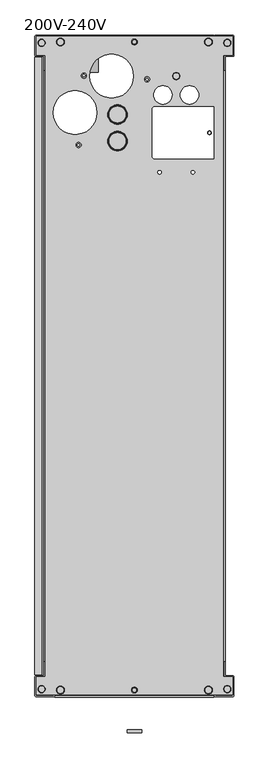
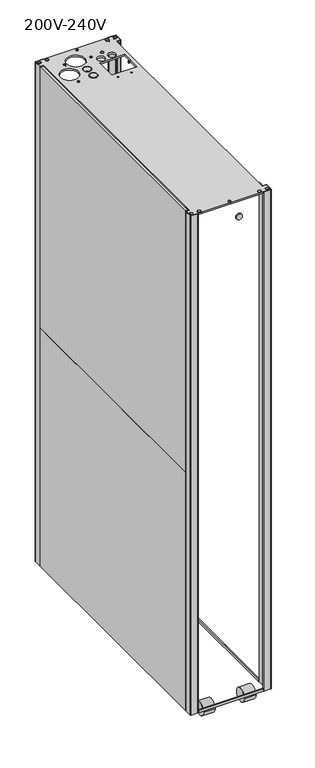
"""IFC4 building model written with IfcOpenShell, lengths in millimetres: proxy geometry, BIM_Model_for_ACRC301H-AC-Close_Coupled-Schneider_Electric-Chilled_Water-InRow_RC_301H-(208-230)V : 200V-240V."""

import ifcopenshell
import ifcopenshell.guid

model = None  # the IFC model being written
_history = None  # IfcOwnerHistory: only IFC2X3 demands one
_inside = {}  # id of a spatial element -> (the spatial element, [elements in it])
_under = {}  # id of a project, library or spatial element -> (it, [spatial elements below it])
_declared = {}  # id of a project -> (the project, [libraries it declares])
_typed = {}  # id of a type object -> (the type object, [elements of that type])
_made_of = {}  # id of a material, layer set ... -> (it, [elements and type objects made of it])


def new_model(schema):
    """Start an empty IFC model of exactly this schema.

    Asked for "IFC4X3", IfcOpenShell would pick the latest addendum, in which some entities
    have other attributes; the version numbers below select the first issue.
    IFC2X3 requires an IfcOwnerHistory on every rooted entity: one is made here for all.
    """
    global model, _history
    if schema == "IFC4X3":
        model = ifcopenshell.file(schema_version=(4, 3, 0, 0))
    else:
        model = ifcopenshell.file(schema=schema)
    _inside.clear()
    _under.clear()
    _declared.clear()
    _typed.clear()
    _made_of.clear()
    _history = None
    if model.schema == "IFC2X3":
        org = make("IfcOrganization", Name="unknown")
        user = make(
            "IfcPersonAndOrganization",
            ThePerson=make("IfcPerson", FamilyName="unknown"),
            TheOrganization=org,
        )
        app = make(
            "IfcApplication",
            ApplicationDeveloper=org,
            Version="unknown",
            ApplicationFullName="unknown",
            ApplicationIdentifier="unknown",
        )
        _history = make(
            "IfcOwnerHistory",
            OwningUser=user,
            OwningApplication=app,
            ChangeAction="ADDED",
            CreationDate=0,
        )
    return model


def make(cls, **values):
    """One entity of the class cls with the attributes given. An attribute that is None is left unset."""
    return model.create_entity(
        cls, **{name: value for name, value in values.items() if value is not None}
    )


def rooted(cls, **values):
    """An entity with a GlobalId (a new one), such as an element, a storey or a relation."""
    return make(cls, GlobalId=ifcopenshell.guid.new(), OwnerHistory=_history, **values)


def si_unit(unit_type, name, prefix=None):
    """IfcSIUnit, for example si_unit("LENGTHUNIT", "METRE", prefix="MILLI")."""
    return make("IfcSIUnit", UnitType=unit_type, Prefix=prefix, Name=name)


def assignment(units):
    """IfcUnitAssignment: the units of a project."""
    return None if units is None else make("IfcUnitAssignment", Units=units)


def point(xyz):
    """IfcCartesianPoint."""
    return None if xyz is None else make("IfcCartesianPoint", Coordinates=xyz)


def direction(xyz):
    """IfcDirection."""
    return None if xyz is None else make("IfcDirection", DirectionRatios=xyz)


def frame(location, z_axis=None, x_axis=None):
    """IfcAxis2Placement3D, a coordinate frame: its origin and axes. An axis left out is left unset."""
    return make(
        "IfcAxis2Placement3D",
        Location=point(location),
        Axis=direction(z_axis),
        RefDirection=direction(x_axis),
    )


def frame_2d(location, x_axis=None):
    """IfcAxis2Placement2D, a coordinate frame in the plane: its origin and x axis."""
    return make(
        "IfcAxis2Placement2D", Location=point(location), RefDirection=direction(x_axis)
    )


def origin():
    """The frame at (0, 0, 0) with its axes left unset."""
    return frame((0.0, 0.0, 0.0))


def place(relative_to, where):
    """IfcLocalPlacement: puts the frame where relative to a parent placement (None: the world)."""
    return make(
        "IfcLocalPlacement", PlacementRelTo=relative_to, RelativePlacement=where
    )


def context(
    kind, dimensions, precision=None, world=None, true_north=None, identifier=None
):
    """IfcGeometricRepresentationContext, for example the 3D "Model" context."""
    return make(
        "IfcGeometricRepresentationContext",
        ContextIdentifier=identifier,
        ContextType=kind,
        CoordinateSpaceDimension=dimensions,
        Precision=precision,
        WorldCoordinateSystem=world,
        TrueNorth=true_north,
    )


def project(units=None, contexts=None):
    """IfcProject with its units and contexts."""
    return rooted(
        "IfcProject",
        Name="project",
        RepresentationContexts=contexts,
        UnitsInContext=assignment(units),
    )


def spatial(cls, under=None, at=None, **own):
    """A site, building, storey or space (cls), placed at a placement, below another one or the project."""
    s = rooted(cls, ObjectPlacement=at, **own)
    if under is not None:
        _under.setdefault(under.id(), (under, []))[1].append(s)
    return s


def polyline(points):
    """IfcPolyline through the points."""
    return make("IfcPolyline", Points=[point(p) for p in points])


def circle_curve(where, radius):
    """IfcCircle in the frame where."""
    return make("IfcCircle", Position=where, Radius=radius)


def trimmed(basis, trim1, trim2, sense, master):
    """IfcTrimmedCurve: the piece of a basis curve between two trims."""
    return make(
        "IfcTrimmedCurve",
        BasisCurve=basis,
        Trim1=trim1,
        Trim2=trim2,
        SenseAgreement=sense,
        MasterRepresentation=master,
    )


def segment(curve, same_sense, transition):
    """IfcCompositeCurveSegment."""
    return make(
        "IfcCompositeCurveSegment",
        Transition=transition,
        SameSense=same_sense,
        ParentCurve=curve,
    )


def composite_curve(segments, self_intersect=None):
    """IfcCompositeCurve: segments joined end to end."""
    return make("IfcCompositeCurve", Segments=segments, SelfIntersect=self_intersect)


def outline(outer, holes=None, kind="AREA"):
    """IfcArbitraryClosedProfileDef: a profile drawn as a closed curve; with holes, ...WithVoids."""
    if holes is None:
        return make("IfcArbitraryClosedProfileDef", ProfileType=kind, OuterCurve=outer)
    return make(
        "IfcArbitraryProfileDefWithVoids",
        ProfileType=kind,
        OuterCurve=outer,
        InnerCurves=holes,
    )


def extrude(swept, where, along, depth):
    """IfcExtrudedAreaSolid: the profile swept, set in the frame where, extruded along a direction by depth."""
    return make(
        "IfcExtrudedAreaSolid",
        SweptArea=swept,
        Position=where,
        ExtrudedDirection=direction(along),
        Depth=depth,
    )


def shape(context_of_items, identifier, shape_type, items):
    """IfcShapeRepresentation: the items that make up one representation, for example the "Body"."""
    return make(
        "IfcShapeRepresentation",
        ContextOfItems=context_of_items,
        RepresentationIdentifier=identifier,
        RepresentationType=shape_type,
        Items=items,
    )


def source(mapping_origin, context_of_items, identifier, shape_type, items):
    """IfcRepresentationMap: a shape defined once, which mapped items show again and again."""
    return make(
        "IfcRepresentationMap",
        MappingOrigin=mapping_origin,
        MappedRepresentation=shape(context_of_items, identifier, shape_type, items),
    )


def transform(
    local_origin,
    x_axis=None,
    y_axis=None,
    z_axis=None,
    scale=None,
    scale2=None,
    scale3=None,
    uniform=True,
):
    """IfcCartesianTransformationOperator3D, or its non-uniform kind. x_axis, y_axis, z_axis: its Axis1, 2, 3."""
    if uniform:
        return make(
            "IfcCartesianTransformationOperator3D",
            Axis1=direction(x_axis),
            Axis2=direction(y_axis),
            LocalOrigin=point(local_origin),
            Scale=scale,
            Axis3=direction(z_axis),
        )
    return make(
        "IfcCartesianTransformationOperator3DnonUniform",
        Axis1=direction(x_axis),
        Axis2=direction(y_axis),
        LocalOrigin=point(local_origin),
        Scale=scale,
        Axis3=direction(z_axis),
        Scale2=scale2,
        Scale3=scale3,
    )


def mapped(mapping_source, mapping_target):
    """IfcMappedItem: shows the shape of a source again, moved by a transform."""
    return make(
        "IfcMappedItem", MappingSource=mapping_source, MappingTarget=mapping_target
    )


def made_of(thing, what):
    """Note that an element or type object is made of a material, layer set ...; save() writes the relation."""
    if what is not None:
        _made_of.setdefault(what.id(), (what, []))[1].append(thing)
    return thing


def element(
    cls,
    number,
    at=None,
    inside=None,
    cuts=None,
    type_object=None,
    material=None,
    context=None,
    identifier="Body",
    shape_type=None,
    held_by="IfcProductDefinitionShape",
    body=None,
    shapes=None,
    **own,
):
    """One element of the class cls, such as IfcWall. Its Tag is "e" and its number.

    at: its placement. inside: the storey or other place that contains it. cuts: it is an
    opening in that element (IfcRelVoidsElement). A single representation is given by context,
    identifier, shape_type and body (its items); several are given by shapes. held_by: the class
    of the entity that holds the representations. save() writes the other relations.
    """
    e = rooted(cls, Tag="e%d" % number, ObjectPlacement=at, **own)
    if body is not None:
        shapes = [shape(context, identifier, shape_type, body)]
    if shapes is not None:
        e.Representation = make(held_by, Representations=shapes)
    if inside is not None:
        _inside.setdefault(inside.id(), (inside, []))[1].append(e)
    if cuts is not None:
        rooted(
            "IfcRelVoidsElement", RelatingBuildingElement=cuts, RelatedOpeningElement=e
        )
    if type_object is not None:
        _typed.setdefault(type_object.id(), (type_object, []))[1].append(e)
    return made_of(e, material)


def aggregate(whole, parts):
    """IfcRelAggregates: a whole, such as a stair, and the parts it consists of."""
    return rooted("IfcRelAggregates", RelatingObject=whole, RelatedObjects=parts)


def save(model, path):
    """Write the relations noted so far, then the file.

    IfcRelAggregates (storeys below a building ...), IfcRelContainedInSpatialStructure (elements
    in a storey), IfcRelDefinesByType, IfcRelAssociatesMaterial and IfcRelDeclares: one each for
    every whole, place, type object, material and project.
    """
    for whole, parts in _under.values():
        aggregate(whole, parts)
    for where, things in _inside.values():
        rooted(
            "IfcRelContainedInSpatialStructure",
            RelatedElements=things,
            RelatingStructure=where,
        )
    for kind, things in _typed.values():
        rooted("IfcRelDefinesByType", RelatedObjects=things, RelatingType=kind)
    for what, things in _made_of.values():
        rooted("IfcRelAssociatesMaterial", RelatedObjects=things, RelatingMaterial=what)
    for by, libraries in _declared.values():
        rooted("IfcRelDeclares", RelatingContext=by, RelatedDefinitions=libraries)
    model.write(path)


def proxy_200v_240v_fc451c2e(model_context):
    return source(origin(), model_context, "Body", "SweptSolid", [
        extrude(outline(polyline([(-134.4810716, -455.3598648), (-134.4810716, 481.6724812), (-147.957802, 481.6724812), (-147.957802, 509.8577013), (147.9659779, 509.8577013), (147.9659779, 481.6803412), (133.7578931, 481.6803412), (133.7578931, -455.3455684), (147.8616006, -455.3455684), (147.8616006, -482.2563963), (-148.1830962, -482.2563963), (-148.1830962, -455.3598648), (-134.4810716, -455.3598648)]), holes=[composite_curve([segment(trimmed(circle_curve(frame_2d((-139.9810746, 500.1376512)), 5.3750029), [point((-145.3560775, 500.1376512))], [point((-134.6060717, 500.1376512))], True, "CARTESIAN"), True, "CONTINUOUS"), segment(trimmed(circle_curve(frame_2d((-139.9810746, 500.1376512)), 5.3750029), [point((-134.6060717, 500.1376512))], [point((-145.3560775, 500.1376512))], True, "CARTESIAN"), True, "CONTINUOUS")], self_intersect=False), composite_curve([segment(trimmed(circle_curve(frame_2d((-111.5499792, 501.5165719)), 6.0000032), [point((-117.5499825, 501.5165719))], [point((-105.549976, 501.5165719))], True, "CARTESIAN"), True, "CONTINUOUS"), segment(trimmed(circle_curve(frame_2d((-111.5499792, 501.5165719)), 6.0000032), [point((-105.549976, 501.5165719))], [point((-117.5499825, 501.5165719))], True, "CARTESIAN"), True, "CONTINUOUS")], self_intersect=False), composite_curve([segment(trimmed(circle_curve(frame_2d((8.1e-05, 501.5165719)), 4.3750024), [point((-4.3749214, 501.5165719))], [point((4.3750834, 501.5165719))], True, "CARTESIAN"), True, "CONTINUOUS"), segment(trimmed(circle_curve(frame_2d((8.1e-05, 501.5165719)), 4.3750024), [point((4.3750834, 501.5165719))], [point((-4.3749214, 501.5165719))], True, "CARTESIAN"), True, "CONTINUOUS")], self_intersect=False), composite_curve([segment(trimmed(circle_curve(frame_2d((111.5501412, 501.5165719)), 6.0000032), [point((105.550138, 501.5165719))], [point((117.5501445, 501.5165719))], True, "CARTESIAN"), True, "CONTINUOUS"), segment(trimmed(circle_curve(frame_2d((111.5501412, 501.5165719)), 6.0000032), [point((117.5501445, 501.5165719))], [point((105.550138, 501.5165719))], True, "CARTESIAN"), True, "CONTINUOUS")], self_intersect=False), composite_curve([segment(trimmed(circle_curve(frame_2d((139.9812366, 500.1376512)), 5.3750029), [point((134.6062337, 500.1376512))], [point((145.3562395, 500.1376512))], True, "CARTESIAN"), True, "CONTINUOUS"), segment(trimmed(circle_curve(frame_2d((139.9812366, 500.1376512)), 5.3750029), [point((145.3562395, 500.1376512))], [point((134.6062337, 500.1376512))], True, "CARTESIAN"), True, "CONTINUOUS")], self_intersect=False), composite_curve([segment(trimmed(circle_curve(frame_2d((-89.4810473, 395.1565145)), 33.0000178), [point((-122.4810651, 395.1565145))], [point((-56.4810295, 395.1565145))], True, "CARTESIAN"), True, "CONTINUOUS"), segment(trimmed(circle_curve(frame_2d((-89.4810473, 395.1565145)), 33.0000178), [point((-56.4810295, 395.1565145))], [point((-122.4810651, 395.1565145))], True, "CARTESIAN"), True, "CONTINUOUS")], self_intersect=False), composite_curve([segment(trimmed(circle_curve(frame_2d((-34.4810176, 450.1565442)), 33.0000178), [point((-67.4810354, 450.1565442))], [point((-1.4809998, 450.1565442))], True, "CARTESIAN"), True, "CONTINUOUS"), segment(trimmed(circle_curve(frame_2d((-34.4810176, 450.1565442)), 33.0000178), [point((-1.4809998, 450.1565442))], [point((-67.4810354, 450.1565442))], True, "CARTESIAN"), True, "CONTINUOUS")], self_intersect=False), composite_curve([segment(trimmed(circle_curve(frame_2d((-25.5188528, 392.1565129)), 14.6812079), [point((-40.2000607, 392.1565129))], [point((-10.8376449, 392.1565129))], True, "CARTESIAN"), True, "CONTINUOUS"), segment(trimmed(circle_curve(frame_2d((-25.5188528, 392.1565129)), 14.6812079), [point((-10.8376449, 392.1565129))], [point((-40.2000607, 392.1565129))], True, "CARTESIAN"), True, "CONTINUOUS")], self_intersect=False), composite_curve([segment(trimmed(circle_curve(frame_2d((-25.5188528, 352.1564913)), 14.6812079), [point((-40.2000607, 352.1564913))], [point((-10.8376449, 352.1564913))], True, "CARTESIAN"), True, "CONTINUOUS"), segment(trimmed(circle_curve(frame_2d((-25.5188528, 352.1564913)), 14.6812079), [point((-10.8376449, 352.1564913))], [point((-40.2000607, 352.1564913))], True, "CARTESIAN"), True, "CONTINUOUS")], self_intersect=False), polyline([(119.5922256, 403.6565191), (28.9866434, 403.6565191), (26.9866423, 401.656518), (26.9866423, 397.6565158), (26.9866423, 331.6564802), (26.9866423, 327.656478), (28.9866434, 325.6564769), (119.5922256, 325.6564769), (119.5922256, 403.6565191)]), composite_curve([segment(trimmed(circle_curve(frame_2d((82.9812058, 421.6565288)), 13.9000075), [point((69.0811983, 421.6565288))], [point((96.8812133, 421.6565288))], True, "CARTESIAN"), True, "CONTINUOUS"), segment(trimmed(circle_curve(frame_2d((82.9812058, 421.6565288)), 13.9000075), [point((96.8812133, 421.6565288))], [point((69.0811983, 421.6565288))], True, "CARTESIAN"), True, "CONTINUOUS")], self_intersect=False), composite_curve([segment(trimmed(circle_curve(frame_2d((42.9811842, 421.6565288)), 13.9000075), [point((29.0811767, 421.6565288))], [point((56.8811917, 421.6565288))], True, "CARTESIAN"), True, "CONTINUOUS"), segment(trimmed(circle_curve(frame_2d((42.9811842, 421.6565288)), 13.9000075), [point((56.8811917, 421.6565288))], [point((29.0811767, 421.6565288))], True, "CARTESIAN"), True, "CONTINUOUS")], self_intersect=False), composite_curve([segment(trimmed(circle_curve(frame_2d((19.0773315, 445.2074267)), 3.8000021), [point((15.2773295, 445.2074267))], [point((22.8773336, 445.2074267))], True, "CARTESIAN"), True, "CONTINUOUS"), segment(trimmed(circle_curve(frame_2d((19.0773315, 445.2074267)), 3.8000021), [point((22.8773336, 445.2074267))], [point((15.2773295, 445.2074267))], True, "CARTESIAN"), True, "CONTINUOUS")], self_intersect=False), composite_curve([segment(trimmed(circle_curve(frame_2d((62.981195, 450.1565442)), 5.2500028), [point((57.7311922, 450.1565442))], [point((68.2311978, 450.1565442))], True, "CARTESIAN"), True, "CONTINUOUS"), segment(trimmed(circle_curve(frame_2d((62.981195, 450.1565442)), 5.2500028), [point((68.2311978, 450.1565442))], [point((57.7311922, 450.1565442))], True, "CARTESIAN"), True, "CONTINUOUS")], self_intersect=False), composite_curve([segment(trimmed(circle_curve(frame_2d((-76.2865117, 450.7524474)), 3.8000021), [point((-80.0865138, 450.7524474))], [point((-72.4865097, 450.7524474))], True, "CARTESIAN"), True, "CONTINUOUS"), segment(trimmed(circle_curve(frame_2d((-76.2865117, 450.7524474)), 3.8000021), [point((-72.4865097, 450.7524474))], [point((-80.0865138, 450.7524474))], True, "CARTESIAN"), True, "CONTINUOUS")], self_intersect=False), composite_curve([segment(trimmed(circle_curve(frame_2d((-84.1459649, 346.2429222)), 3.8000021), [point((-87.945967, 346.2429222))], [point((-80.3459629, 346.2429222))], True, "CARTESIAN"), True, "CONTINUOUS"), segment(trimmed(circle_curve(frame_2d((-84.1459649, 346.2429222)), 3.8000021), [point((-80.3459629, 346.2429222))], [point((-87.945967, 346.2429222))], True, "CARTESIAN"), True, "CONTINUOUS")], self_intersect=False), composite_curve([segment(trimmed(circle_curve(frame_2d((87.9812085, 305.1564659)), 2.6647024), [point((85.3165061, 305.1564659))], [point((90.6459109, 305.1564659))], True, "CARTESIAN"), True, "CONTINUOUS"), segment(trimmed(circle_curve(frame_2d((87.9812085, 305.1564659)), 2.6647024), [point((90.6459109, 305.1564659))], [point((85.3165061, 305.1564659))], True, "CARTESIAN"), True, "CONTINUOUS")], self_intersect=False), composite_curve([segment(trimmed(circle_curve(frame_2d((37.9811815, 305.1564659)), 2.6647024), [point((35.3164791, 305.1564659))], [point((40.6458839, 305.1564659))], True, "CARTESIAN"), True, "CONTINUOUS"), segment(trimmed(circle_curve(frame_2d((37.9811815, 305.1564659)), 2.6647024), [point((40.6458839, 305.1564659))], [point((35.3164791, 305.1564659))], True, "CARTESIAN"), True, "CONTINUOUS")], self_intersect=False), composite_curve([segment(trimmed(circle_curve(frame_2d((139.9812366, -473.8250348)), 5.3750029), [point((134.6062337, -473.8250348))], [point((145.3562395, -473.8250348))], True, "CARTESIAN"), True, "CONTINUOUS"), segment(trimmed(circle_curve(frame_2d((139.9812366, -473.8250348)), 5.3750029), [point((145.3562395, -473.8250348))], [point((134.6062337, -473.8250348))], True, "CARTESIAN"), True, "CONTINUOUS")], self_intersect=False), composite_curve([segment(trimmed(circle_curve(frame_2d((111.5501412, -475.2039555)), 6.0000032), [point((105.550138, -475.2039555))], [point((117.5501445, -475.2039555))], True, "CARTESIAN"), True, "CONTINUOUS"), segment(trimmed(circle_curve(frame_2d((111.5501412, -475.2039555)), 6.0000032), [point((117.5501445, -475.2039555))], [point((105.550138, -475.2039555))], True, "CARTESIAN"), True, "CONTINUOUS")], self_intersect=False), composite_curve([segment(trimmed(circle_curve(frame_2d((8.1e-05, -475.2039555)), 4.3750024), [point((-4.3749214, -475.2039555))], [point((4.3750834, -475.2039555))], True, "CARTESIAN"), True, "CONTINUOUS"), segment(trimmed(circle_curve(frame_2d((8.1e-05, -475.2039555)), 4.3750024), [point((4.3750834, -475.2039555))], [point((-4.3749214, -475.2039555))], True, "CARTESIAN"), True, "CONTINUOUS")], self_intersect=False), composite_curve([segment(trimmed(circle_curve(frame_2d((-139.9810746, -473.8250348)), 5.3750029), [point((-145.3560775, -473.8250348))], [point((-134.6060717, -473.8250348))], True, "CARTESIAN"), True, "CONTINUOUS"), segment(trimmed(circle_curve(frame_2d((-139.9810746, -473.8250348)), 5.3750029), [point((-134.6060717, -473.8250348))], [point((-145.3560775, -473.8250348))], True, "CARTESIAN"), True, "CONTINUOUS")], self_intersect=False), composite_curve([segment(trimmed(circle_curve(frame_2d((-111.5499792, -475.2039555)), 6.0000032), [point((-117.5499825, -475.2039555))], [point((-105.549976, -475.2039555))], True, "CARTESIAN"), True, "CONTINUOUS"), segment(trimmed(circle_curve(frame_2d((-111.5499792, -475.2039555)), 6.0000032), [point((-105.549976, -475.2039555))], [point((-117.5499825, -475.2039555))], True, "CARTESIAN"), True, "CONTINUOUS")], self_intersect=False)]), frame((0.0, 0.0, 1985.0), z_axis=(0.0, 0.0, 1.0), x_axis=(1.0, 0.0, 0.0)), (0.0, 0.0, 1.0), 6.0),
        extrude(outline(composite_curve([segment(trimmed(circle_curve(frame_2d((-139.9810746, 500.1346512)), 4.6000025), [point((-144.5810771, 500.1346512))], [point((-135.3810721, 500.1346512))], False, "CARTESIAN"), True, "CONTINUOUS"), segment(trimmed(circle_curve(frame_2d((-139.9810746, 500.1346512)), 4.6000025), [point((-135.3810721, 500.1346512))], [point((-144.5810771, 500.1346512))], False, "CARTESIAN"), True, "CONTINUOUS")], self_intersect=False)), frame((0.0, 0.0, 1985.0), z_axis=(0.0, 0.0, 1.0), x_axis=(1.0, 0.0, 0.0)), (0.0, 0.0, 1.0), 6.0),
        extrude(outline(composite_curve([segment(trimmed(circle_curve(frame_2d((-111.5509792, 501.5165719)), 5.0000027), [point((-116.5509819, 501.5165719))], [point((-106.5509765, 501.5165719))], False, "CARTESIAN"), True, "CONTINUOUS"), segment(trimmed(circle_curve(frame_2d((-111.5509792, 501.5165719)), 5.0000027), [point((-106.5509765, 501.5165719))], [point((-116.5509819, 501.5165719))], False, "CARTESIAN"), True, "CONTINUOUS")], self_intersect=False)), frame((0.0, 0.0, 1985.0), z_axis=(0.0, 0.0, 1.0), x_axis=(1.0, 0.0, 0.0)), (0.0, 0.0, 1.0), 6.0),
        extrude(outline(composite_curve([segment(trimmed(circle_curve(frame_2d((8.1e-05, 501.5165719)), 3.0000016), [point((-2.9999206, 501.5165719))], [point((3.0000826, 501.5165719))], False, "CARTESIAN"), True, "CONTINUOUS"), segment(trimmed(circle_curve(frame_2d((8.1e-05, 501.5165719)), 3.0000016), [point((3.0000826, 501.5165719))], [point((-2.9999206, 501.5165719))], False, "CARTESIAN"), True, "CONTINUOUS")], self_intersect=False)), frame((0.0, 0.0, 1985.0), z_axis=(0.0, 0.0, 1.0), x_axis=(1.0, 0.0, 0.0)), (0.0, 0.0, 1.0), 6.0),
        extrude(outline(composite_curve([segment(trimmed(circle_curve(frame_2d((111.5512212, 501.5176519)), 5.0000027), [point((106.5512185, 501.5176519))], [point((116.5512239, 501.5176519))], False, "CARTESIAN"), True, "CONTINUOUS"), segment(trimmed(circle_curve(frame_2d((111.5512212, 501.5176519)), 5.0000027), [point((116.5512239, 501.5176519))], [point((106.5512185, 501.5176519))], False, "CARTESIAN"), True, "CONTINUOUS")], self_intersect=False)), frame((0.0, 0.0, 1985.0), z_axis=(0.0, 0.0, 1.0), x_axis=(1.0, 0.0, 0.0)), (0.0, 0.0, 1.0), 6.0),
        extrude(outline(composite_curve([segment(trimmed(circle_curve(frame_2d((139.9812366, 500.1376512)), 4.6000025), [point((135.3812341, 500.1376512))], [point((144.5812391, 500.1376512))], False, "CARTESIAN"), True, "CONTINUOUS"), segment(trimmed(circle_curve(frame_2d((139.9812366, 500.1376512)), 4.6000025), [point((144.5812391, 500.1376512))], [point((135.3812341, 500.1376512))], False, "CARTESIAN"), True, "CONTINUOUS")], self_intersect=False)), frame((0.0, 0.0, 1985.0), z_axis=(0.0, 0.0, 1.0), x_axis=(1.0, 0.0, 0.0)), (0.0, 0.0, 1.0), 6.0),
        extrude(outline(composite_curve([segment(trimmed(circle_curve(frame_2d((-25.5188528, 392.1565129)), 14.0462076), [point((-39.5650604, 392.1565129))], [point((-11.4726452, 392.1565129))], False, "CARTESIAN"), True, "CONTINUOUS"), segment(trimmed(circle_curve(frame_2d((-25.5188528, 392.1565129)), 14.0462076), [point((-11.4726452, 392.1565129))], [point((-39.5650604, 392.1565129))], False, "CARTESIAN"), True, "CONTINUOUS")], self_intersect=False), holes=[composite_curve([segment(trimmed(circle_curve(frame_2d((-25.5188528, 392.1565129)), 13.2461072), [point((-38.7649599, 392.1565129))], [point((-12.2727456, 392.1565129))], True, "CARTESIAN"), True, "CONTINUOUS"), segment(trimmed(circle_curve(frame_2d((-25.5188528, 392.1565129)), 13.2461072), [point((-12.2727456, 392.1565129))], [point((-38.7649599, 392.1565129))], True, "CARTESIAN"), True, "CONTINUOUS")], self_intersect=False)]), frame((0.0, 0.0, 1985.0), z_axis=(0.0, 0.0, 1.0), x_axis=(1.0, 0.0, 0.0)), (0.0, 0.0, 1.0), 6.0),
        extrude(outline(composite_curve([segment(trimmed(circle_curve(frame_2d((-25.5188528, 392.1565129)), 12.6111068), [point((-38.1299596, 392.1565129))], [point((-12.907746, 392.1565129))], False, "CARTESIAN"), True, "CONTINUOUS"), segment(trimmed(circle_curve(frame_2d((-25.5188528, 392.1565129)), 12.6111068), [point((-12.907746, 392.1565129))], [point((-38.1299596, 392.1565129))], False, "CARTESIAN"), True, "CONTINUOUS")], self_intersect=False)), frame((0.0, 0.0, 1985.0), z_axis=(0.0, 0.0, 1.0), x_axis=(1.0, 0.0, 0.0)), (0.0, 0.0, 1.0), 6.0),
        extrude(outline(composite_curve([segment(trimmed(circle_curve(frame_2d((-25.5188528, 352.1564913)), 14.0462076), [point((-39.5650604, 352.1564913))], [point((-11.4726452, 352.1564913))], False, "CARTESIAN"), True, "CONTINUOUS"), segment(trimmed(circle_curve(frame_2d((-25.5188528, 352.1564913)), 14.0462076), [point((-11.4726452, 352.1564913))], [point((-39.5650604, 352.1564913))], False, "CARTESIAN"), True, "CONTINUOUS")], self_intersect=False), holes=[composite_curve([segment(trimmed(circle_curve(frame_2d((-25.5188528, 352.1564913)), 13.2461072), [point((-38.7649599, 352.1564913))], [point((-12.2727456, 352.1564913))], True, "CARTESIAN"), True, "CONTINUOUS"), segment(trimmed(circle_curve(frame_2d((-25.5188528, 352.1564913)), 13.2461072), [point((-12.2727456, 352.1564913))], [point((-38.7649599, 352.1564913))], True, "CARTESIAN"), True, "CONTINUOUS")], self_intersect=False)]), frame((0.0, 0.0, 1985.0), z_axis=(0.0, 0.0, 1.0), x_axis=(1.0, 0.0, 0.0)), (0.0, 0.0, 1.0), 6.0),
        extrude(outline(composite_curve([segment(trimmed(circle_curve(frame_2d((-25.5188528, 352.1564913)), 12.6111068), [point((-38.1299596, 352.1564913))], [point((-12.907746, 352.1564913))], False, "CARTESIAN"), True, "CONTINUOUS"), segment(trimmed(circle_curve(frame_2d((-25.5188528, 352.1564913)), 12.6111068), [point((-12.907746, 352.1564913))], [point((-38.1299596, 352.1564913))], False, "CARTESIAN"), True, "CONTINUOUS")], self_intersect=False)), frame((0.0, 0.0, 1985.0), z_axis=(0.0, 0.0, 1.0), x_axis=(1.0, 0.0, 0.0)), (0.0, 0.0, 1.0), 6.0),
        extrude(outline(composite_curve([segment(trimmed(circle_curve(frame_2d((19.0773315, 445.2074267)), 2.0000011), [point((17.0773305, 445.2074267))], [point((21.0773326, 445.2074267))], False, "CARTESIAN"), True, "CONTINUOUS"), segment(trimmed(circle_curve(frame_2d((19.0773315, 445.2074267)), 2.0000011), [point((21.0773326, 445.2074267))], [point((17.0773305, 445.2074267))], False, "CARTESIAN"), True, "CONTINUOUS")], self_intersect=False)), frame((0.0, 0.0, 1985.0), z_axis=(0.0, 0.0, 1.0), x_axis=(1.0, 0.0, 0.0)), (0.0, 0.0, 1.0), 6.0),
        extrude(outline(composite_curve([segment(trimmed(circle_curve(frame_2d((62.981195, 450.1565442)), 4.6000025), [point((58.3811925, 450.1565442))], [point((67.5811975, 450.1565442))], False, "CARTESIAN"), True, "CONTINUOUS"), segment(trimmed(circle_curve(frame_2d((62.981195, 450.1565442)), 4.6000025), [point((67.5811975, 450.1565442))], [point((58.3811925, 450.1565442))], False, "CARTESIAN"), True, "CONTINUOUS")], self_intersect=False)), frame((0.0, 0.0, 1985.0), z_axis=(0.0, 0.0, 1.0), x_axis=(1.0, 0.0, 0.0)), (0.0, 0.0, 1.0), 6.0),
        extrude(outline(composite_curve([segment(trimmed(circle_curve(frame_2d((-76.2865117, 450.7524474)), 2.0000011), [point((-78.2865128, 450.7524474))], [point((-74.2865106, 450.7524474))], False, "CARTESIAN"), True, "CONTINUOUS"), segment(trimmed(circle_curve(frame_2d((-76.2865117, 450.7524474)), 2.0000011), [point((-74.2865106, 450.7524474))], [point((-78.2865128, 450.7524474))], False, "CARTESIAN"), True, "CONTINUOUS")], self_intersect=False)), frame((0.0, 0.0, 1985.0), z_axis=(0.0, 0.0, 1.0), x_axis=(1.0, 0.0, 0.0)), (0.0, 0.0, 1.0), 6.0),
        extrude(outline(composite_curve([segment(trimmed(circle_curve(frame_2d((-84.1459649, 346.2429222)), 2.0000011), [point((-86.145966, 346.2429222))], [point((-82.1459638, 346.2429222))], False, "CARTESIAN"), True, "CONTINUOUS"), segment(trimmed(circle_curve(frame_2d((-84.1459649, 346.2429222)), 2.0000011), [point((-82.1459638, 346.2429222))], [point((-86.145966, 346.2429222))], False, "CARTESIAN"), True, "CONTINUOUS")], self_intersect=False)), frame((0.0, 0.0, 1985.0), z_axis=(0.0, 0.0, 1.0), x_axis=(1.0, 0.0, 0.0)), (0.0, 0.0, 1.0), 6.0),
        extrude(outline(composite_curve([segment(trimmed(circle_curve(frame_2d((112.981222, 364.656498)), 2.7050015), [point((110.2762205, 364.656498))], [point((115.6862235, 364.656498))], False, "CARTESIAN"), True, "CONTINUOUS"), segment(trimmed(circle_curve(frame_2d((112.981222, 364.656498)), 2.7050015), [point((115.6862235, 364.656498))], [point((110.2762205, 364.656498))], False, "CARTESIAN"), True, "CONTINUOUS")], self_intersect=False), holes=[composite_curve([segment(trimmed(circle_curve(frame_2d((112.981222, 364.656498)), 2.0000011), [point((110.9812209, 364.656498))], [point((114.9812231, 364.656498))], True, "CARTESIAN"), True, "CONTINUOUS"), segment(trimmed(circle_curve(frame_2d((112.981222, 364.656498)), 2.0000011), [point((114.9812231, 364.656498))], [point((110.9812209, 364.656498))], True, "CARTESIAN"), True, "CONTINUOUS")], self_intersect=False)]), frame((0.0, 0.0, 1985.0), z_axis=(0.0, 0.0, 1.0), x_axis=(1.0, 0.0, 0.0)), (0.0, 0.0, 1.0), 6.0),
        extrude(outline(composite_curve([segment(trimmed(circle_curve(frame_2d((139.9812366, -473.8220348)), 4.6000025), [point((135.3812341, -473.8220348))], [point((144.5812391, -473.8220348))], False, "CARTESIAN"), True, "CONTINUOUS"), segment(trimmed(circle_curve(frame_2d((139.9812366, -473.8220348)), 4.6000025), [point((144.5812391, -473.8220348))], [point((135.3812341, -473.8220348))], False, "CARTESIAN"), True, "CONTINUOUS")], self_intersect=False)), frame((0.0, 0.0, 1985.0), z_axis=(0.0, 0.0, 1.0), x_axis=(1.0, 0.0, 0.0)), (0.0, 0.0, 1.0), 6.0),
        extrude(outline(composite_curve([segment(trimmed(circle_curve(frame_2d((111.5511412, -475.2039555)), 5.0000027), [point((106.5511385, -475.2039555))], [point((116.5511439, -475.2039555))], False, "CARTESIAN"), True, "CONTINUOUS"), segment(trimmed(circle_curve(frame_2d((111.5511412, -475.2039555)), 5.0000027), [point((116.5511439, -475.2039555))], [point((106.5511385, -475.2039555))], False, "CARTESIAN"), True, "CONTINUOUS")], self_intersect=False)), frame((0.0, 0.0, 1985.0), z_axis=(0.0, 0.0, 1.0), x_axis=(1.0, 0.0, 0.0)), (0.0, 0.0, 1.0), 6.0),
        extrude(outline(composite_curve([segment(trimmed(circle_curve(frame_2d((8.1e-05, -475.2039555)), 3.0000016), [point((-2.9999206, -475.2039555))], [point((3.0000826, -475.2039555))], False, "CARTESIAN"), True, "CONTINUOUS"), segment(trimmed(circle_curve(frame_2d((8.1e-05, -475.2039555)), 3.0000016), [point((3.0000826, -475.2039555))], [point((-2.9999206, -475.2039555))], False, "CARTESIAN"), True, "CONTINUOUS")], self_intersect=False)), frame((0.0, 0.0, 1985.0), z_axis=(0.0, 0.0, 1.0), x_axis=(1.0, 0.0, 0.0)), (0.0, 0.0, 1.0), 6.0),
        extrude(outline(composite_curve([segment(trimmed(circle_curve(frame_2d((-139.9810746, -473.8250348)), 4.6000025), [point((-144.5810771, -473.8250348))], [point((-135.3810721, -473.8250348))], False, "CARTESIAN"), True, "CONTINUOUS"), segment(trimmed(circle_curve(frame_2d((-139.9810746, -473.8250348)), 4.6000025), [point((-135.3810721, -473.8250348))], [point((-144.5810771, -473.8250348))], False, "CARTESIAN"), True, "CONTINUOUS")], self_intersect=False)), frame((0.0, 0.0, 1985.0), z_axis=(0.0, 0.0, 1.0), x_axis=(1.0, 0.0, 0.0)), (0.0, 0.0, 1.0), 6.0),
        extrude(outline(composite_curve([segment(trimmed(circle_curve(frame_2d((-111.5510592, -475.2050355)), 5.0000027), [point((-116.5510619, -475.2050355))], [point((-106.5510565, -475.2050355))], False, "CARTESIAN"), True, "CONTINUOUS"), segment(trimmed(circle_curve(frame_2d((-111.5510592, -475.2050355)), 5.0000027), [point((-106.5510565, -475.2050355))], [point((-116.5510619, -475.2050355))], False, "CARTESIAN"), True, "CONTINUOUS")], self_intersect=False)), frame((0.0, 0.0, 1985.0), z_axis=(0.0, 0.0, 1.0), x_axis=(1.0, 0.0, 0.0)), (0.0, 0.0, 1.0), 6.0),
        extrude(outline(polyline([(119.7501457, -483.57504), (119.7501457, -485.8439613), (-119.7499837, -485.8439613), (-119.7499837, -483.57504), (119.7501457, -483.57504)])), frame((0.0, 0.0, 36.1092195), z_axis=(0.0, 0.0, 1.0), x_axis=(1.0, 0.0, 0.0)), (0.0, 0.0, 1.0), 10.0),
        extrude(outline(polyline([(119.7501457, 512.1565777), (119.7501457, 509.8876564), (-119.7499837, 509.8876564), (-119.7499837, 512.1565777), (119.7501457, 512.1565777)])), frame((0.0, 0.0, 36.1092195), z_axis=(0.0, 0.0, 1.0), x_axis=(1.0, 0.0, 0.0)), (0.0, 0.0, 1.0), 10.0),
        extrude(outline(polyline([(136.4999927, 459.156549), (136.4999927, -432.8439326), (134.2312335, -432.8439326), (134.2312335, 459.156549), (136.4999927, 459.156549)])), frame((0.0, 0.0, 36.1092195), z_axis=(0.0, 0.0, 1.0), x_axis=(1.0, 0.0, 0.0)), (0.0, 0.0, 1.0), 10.0),
        extrude(outline(polyline([(-136.4999927, -432.8439326), (-136.4999927, 459.156549), (-134.2310715, 459.156549), (-134.2310715, -432.8439326), (-136.4999927, -432.8439326)])), frame((0.0, 0.0, 36.1092195), z_axis=(0.0, 0.0, 1.0), x_axis=(1.0, 0.0, 0.0)), (0.0, 0.0, 1.0), 10.0),
        extrude(outline(composite_curve([segment(trimmed(circle_curve(frame_2d((122.268905, -483.1346453)), 0.7500004), [point((121.5189046, -483.1346453))], [point((122.268905, -483.8846457))], True, "CARTESIAN"), True, "CONTINUOUS"), segment(polyline([(122.268905, -483.8846457), (147.7310788, -483.8846457)]), True, "CONTINUOUS"), segment(trimmed(circle_curve(frame_2d((147.7310788, -483.1346453)), 0.7500004), [point((147.7310788, -483.8846457))], [point((148.4810792, -483.1346453))], True, "CARTESIAN"), True, "CONTINUOUS"), segment(polyline([(148.4810792, -483.1346453), (148.4810792, -455.6724704)]), True, "CONTINUOUS"), segment(trimmed(circle_curve(frame_2d((147.7310788, -455.6724704)), 0.7500004), [point((148.4810792, -455.6724704))], [point((147.7310788, -454.92247))], True, "CARTESIAN"), True, "CONTINUOUS"), segment(polyline([(147.7310788, -454.92247), (137.2499931, -454.92247)]), True, "CONTINUOUS"), segment(trimmed(circle_curve(frame_2d((137.2499931, -452.6535488)), 2.2689212), [point((137.2499931, -454.92247))], [point((134.9810719, -452.6535488))], False, "CARTESIAN"), True, "CONTINUOUS"), segment(polyline([(134.9810719, -452.6535488), (134.9810719, -432.8439326), (136.4999927, -432.8439326), (136.4999927, -452.6535488)]), True, "CONTINUOUS"), segment(trimmed(circle_curve(frame_2d((137.2499931, -452.6535488)), 0.7500004), [point((136.4999927, -452.6535488))], [point((137.2499931, -453.4035492))], True, "CARTESIAN"), True, "CONTINUOUS"), segment(polyline([(137.2499931, -453.4035492), (147.7310788, -453.4035492)]), True, "CONTINUOUS"), segment(trimmed(circle_curve(frame_2d((147.7310788, -455.6724704)), 2.2689212), [point((147.7310788, -453.4035492))], [point((150.0, -455.6724704))], False, "CARTESIAN"), True, "CONTINUOUS"), segment(polyline([(150.0, -455.6724704), (150.0, -483.1346453)]), True, "CONTINUOUS"), segment(trimmed(circle_curve(frame_2d((147.7310788, -483.1346453)), 2.2689212), [point((150.0, -483.1346453))], [point((147.7310788, -485.4035665))], False, "CARTESIAN"), True, "CONTINUOUS"), segment(polyline([(147.7310788, -485.4035665), (122.268905, -485.4035665)]), True, "CONTINUOUS"), segment(trimmed(circle_curve(frame_2d((122.268905, -483.1346453)), 2.2689212), [point((122.268905, -485.4035665))], [point((119.9999838, -483.1346453))], False, "CARTESIAN"), True, "CONTINUOUS"), segment(polyline([(119.9999838, -483.1346453), (121.5189046, -483.1346453)]), True, "CONTINUOUS")], self_intersect=False)), frame((0.0, 0.0, 36.1092195), z_axis=(0.0, 0.0, 1.0), x_axis=(1.0, 0.0, 0.0)), (0.0, 0.0, 1.0), 1954.8907805),
        extrude(outline(composite_curve([segment(polyline([(-121.5189046, -483.1346453), (-119.9999838, -483.1346453)]), True, "CONTINUOUS"), segment(trimmed(circle_curve(frame_2d((-122.268905, -483.1346453)), 2.2689212), [point((-119.9999838, -483.1346453))], [point((-122.268905, -485.4035665))], False, "CARTESIAN"), True, "CONTINUOUS"), segment(polyline([(-122.268905, -485.4035665), (-147.7310788, -485.4035665)]), True, "CONTINUOUS"), segment(trimmed(circle_curve(frame_2d((-147.7310788, -483.1346453)), 2.2689212), [point((-147.7310788, -485.4035665))], [point((-150.0, -483.1346453))], False, "CARTESIAN"), True, "CONTINUOUS"), segment(polyline([(-150.0, -483.1346453), (-150.0, -455.6724704)]), True, "CONTINUOUS"), segment(trimmed(circle_curve(frame_2d((-147.7310788, -455.6724704)), 2.2689212), [point((-150.0, -455.6724704))], [point((-147.7310788, -453.4035492))], False, "CARTESIAN"), True, "CONTINUOUS"), segment(polyline([(-147.7310788, -453.4035492), (-137.2499931, -453.4035492)]), True, "CONTINUOUS"), segment(trimmed(circle_curve(frame_2d((-137.2499931, -452.6535488)), 0.7500004), [point((-137.2499931, -453.4035492))], [point((-136.4999927, -452.6535488))], True, "CARTESIAN"), True, "CONTINUOUS"), segment(polyline([(-136.4999927, -452.6535488), (-136.4999927, -432.8439326), (-134.9810719, -432.8439326), (-134.9810719, -452.6535488)]), True, "CONTINUOUS"), segment(trimmed(circle_curve(frame_2d((-137.2499931, -452.6535488)), 2.2689212), [point((-134.9810719, -452.6535488))], [point((-137.2499931, -454.92247))], False, "CARTESIAN"), True, "CONTINUOUS"), segment(polyline([(-137.2499931, -454.92247), (-147.7310788, -454.92247)]), True, "CONTINUOUS"), segment(trimmed(circle_curve(frame_2d((-147.7310788, -455.6724704)), 0.7500004), [point((-147.7310788, -454.92247))], [point((-148.4810792, -455.6724704))], True, "CARTESIAN"), True, "CONTINUOUS"), segment(polyline([(-148.4810792, -455.6724704), (-148.4810792, -483.1346453)]), True, "CONTINUOUS"), segment(trimmed(circle_curve(frame_2d((-147.7310788, -483.1346453)), 0.7500004), [point((-148.4810792, -483.1346453))], [point((-147.7310788, -483.8846457))], True, "CARTESIAN"), True, "CONTINUOUS"), segment(polyline([(-147.7310788, -483.8846457), (-122.268905, -483.8846457)]), True, "CONTINUOUS"), segment(trimmed(circle_curve(frame_2d((-122.268905, -483.1346453)), 0.7500004), [point((-122.268905, -483.8846457))], [point((-121.5189046, -483.1346453))], True, "CARTESIAN"), True, "CONTINUOUS")], self_intersect=False)), frame((0.0, 0.0, 36.1092195), z_axis=(0.0, 0.0, 1.0), x_axis=(1.0, 0.0, 0.0)), (0.0, 0.0, 1.0), 1954.8907805),
        extrude(outline(composite_curve([segment(polyline([(121.5189046, 509.3846562), (119.9999838, 509.3846562)]), True, "CONTINUOUS"), segment(trimmed(circle_curve(frame_2d((122.268905, 509.3846562)), 2.2689212), [point((119.9999838, 509.3846562))], [point((122.268905, 511.6535774))], False, "CARTESIAN"), True, "CONTINUOUS"), segment(polyline([(122.268905, 511.6535774), (147.7310788, 511.6535774)]), True, "CONTINUOUS"), segment(trimmed(circle_curve(frame_2d((147.7310788, 509.3846562)), 2.2689212), [point((147.7310788, 511.6535774))], [point((150.0, 509.3846562))], False, "CARTESIAN"), True, "CONTINUOUS"), segment(polyline([(150.0, 509.3846562), (150.0, 481.9224813)]), True, "CONTINUOUS"), segment(trimmed(circle_curve(frame_2d((147.7310788, 481.9224813)), 2.2689212), [point((150.0, 481.9224813))], [point((147.7310788, 479.6535601))], False, "CARTESIAN"), True, "CONTINUOUS"), segment(polyline([(147.7310788, 479.6535601), (137.2499931, 479.6535601)]), True, "CONTINUOUS"), segment(trimmed(circle_curve(frame_2d((137.2499931, 478.9035597)), 0.7500004), [point((137.2499931, 479.6535601))], [point((136.4999927, 478.9035597))], True, "CARTESIAN"), True, "CONTINUOUS"), segment(polyline([(136.4999927, 478.9035597), (136.4999927, 459.156549), (134.9810719, 459.156549), (134.9810719, 478.9035597)]), True, "CONTINUOUS"), segment(trimmed(circle_curve(frame_2d((137.2499931, 478.9035597)), 2.2689212), [point((134.9810719, 478.9035597))], [point((137.2499931, 481.1724809))], False, "CARTESIAN"), True, "CONTINUOUS"), segment(polyline([(137.2499931, 481.1724809), (147.7310788, 481.1724809)]), True, "CONTINUOUS"), segment(trimmed(circle_curve(frame_2d((147.7310788, 481.9224813)), 0.7500004), [point((147.7310788, 481.1724809))], [point((148.4810792, 481.9224813))], True, "CARTESIAN"), True, "CONTINUOUS"), segment(polyline([(148.4810792, 481.9224813), (148.4810792, 509.3846562)]), True, "CONTINUOUS"), segment(trimmed(circle_curve(frame_2d((147.7310788, 509.3846562)), 0.7500004), [point((148.4810792, 509.3846562))], [point((147.7310788, 510.1346566))], True, "CARTESIAN"), True, "CONTINUOUS"), segment(polyline([(147.7310788, 510.1346566), (122.268905, 510.1346566)]), True, "CONTINUOUS"), segment(trimmed(circle_curve(frame_2d((122.268905, 509.3846562)), 0.7500004), [point((122.268905, 510.1346566))], [point((121.5189046, 509.3846562))], True, "CARTESIAN"), True, "CONTINUOUS")], self_intersect=False)), frame((0.0, 0.0, 36.1092195), z_axis=(0.0, 0.0, 1.0), x_axis=(1.0, 0.0, 0.0)), (0.0, 0.0, 1.0), 1954.8907805),
        extrude(outline(composite_curve([segment(trimmed(circle_curve(frame_2d((-122.268905, 509.3846562)), 0.7500004), [point((-121.5189046, 509.3846562))], [point((-122.268905, 510.1346566))], True, "CARTESIAN"), True, "CONTINUOUS"), segment(polyline([(-122.268905, 510.1346566), (-147.7310788, 510.1346566)]), True, "CONTINUOUS"), segment(trimmed(circle_curve(frame_2d((-147.7310788, 509.3846562)), 0.7500004), [point((-147.7310788, 510.1346566))], [point((-148.4810792, 509.3846562))], True, "CARTESIAN"), True, "CONTINUOUS"), segment(polyline([(-148.4810792, 509.3846562), (-148.4810792, 481.9224813)]), True, "CONTINUOUS"), segment(trimmed(circle_curve(frame_2d((-147.7310788, 481.9224813)), 0.7500004), [point((-148.4810792, 481.9224813))], [point((-147.7310788, 481.1724809))], True, "CARTESIAN"), True, "CONTINUOUS"), segment(polyline([(-147.7310788, 481.1724809), (-137.2499931, 481.1724809)]), True, "CONTINUOUS"), segment(trimmed(circle_curve(frame_2d((-137.2499931, 478.9035597)), 2.2689212), [point((-137.2499931, 481.1724809))], [point((-134.9810719, 478.9035597))], False, "CARTESIAN"), True, "CONTINUOUS"), segment(polyline([(-134.9810719, 478.9035597), (-134.9810719, 459.156549), (-136.4999927, 459.156549), (-136.4999927, 478.9035597)]), True, "CONTINUOUS"), segment(trimmed(circle_curve(frame_2d((-137.2499931, 478.9035597)), 0.7500004), [point((-136.4999927, 478.9035597))], [point((-137.2499931, 479.6535601))], True, "CARTESIAN"), True, "CONTINUOUS"), segment(polyline([(-137.2499931, 479.6535601), (-147.7310788, 479.6535601)]), True, "CONTINUOUS"), segment(trimmed(circle_curve(frame_2d((-147.7310788, 481.9224813)), 2.2689212), [point((-147.7310788, 479.6535601))], [point((-150.0, 481.9224813))], False, "CARTESIAN"), True, "CONTINUOUS"), segment(polyline([(-150.0, 481.9224813), (-150.0, 509.3846562)]), True, "CONTINUOUS"), segment(trimmed(circle_curve(frame_2d((-147.7310788, 509.3846562)), 2.2689212), [point((-150.0, 509.3846562))], [point((-147.7310788, 511.6535774))], False, "CARTESIAN"), True, "CONTINUOUS"), segment(polyline([(-147.7310788, 511.6535774), (-122.268905, 511.6535774)]), True, "CONTINUOUS"), segment(trimmed(circle_curve(frame_2d((-122.268905, 509.3846562)), 2.2689212), [point((-122.268905, 511.6535774))], [point((-119.9999838, 509.3846562))], False, "CARTESIAN"), True, "CONTINUOUS"), segment(polyline([(-119.9999838, 509.3846562), (-121.5189046, 509.3846562)]), True, "CONTINUOUS")], self_intersect=False)), frame((0.0, 0.0, 36.1092195), z_axis=(0.0, 0.0, 1.0), x_axis=(1.0, 0.0, 0.0)), (0.0, 0.0, 1.0), 1954.8907805),
        extrude(outline(composite_curve([segment(trimmed(circle_curve(frame_2d((481.6556622, 25.0510733)), 25.4000137), [point((456.2556484, 25.0510733))], [point((507.0556759, 25.0510733))], False, "CARTESIAN"), True, "CONTINUOUS"), segment(trimmed(circle_curve(frame_2d((481.6556622, 25.0510733)), 25.4000137), [point((507.0556759, 25.0510733))], [point((456.2556484, 25.0510733))], False, "CARTESIAN"), True, "CONTINUOUS")], self_intersect=False)), frame((-97.025479, 0.0, 0.0), z_axis=(1.0, 0.0, 0.0), x_axis=(0.0, 1.0, 0.0)), (0.0, 0.0, 1.0), 42.500023),
        extrude(outline(composite_curve([segment(trimmed(circle_curve(frame_2d((-453.0602856, 25.2542522)), 25.4000137), [point((-478.4602994, 25.2542522))], [point((-427.6602719, 25.2542522))], False, "CARTESIAN"), True, "CONTINUOUS"), segment(trimmed(circle_curve(frame_2d((-453.0602856, 25.2542522)), 25.4000137), [point((-427.6602719, 25.2542522))], [point((-478.4602994, 25.2542522))], False, "CARTESIAN"), True, "CONTINUOUS")], self_intersect=False)), frame((-97.025479, 0.0, 0.0), z_axis=(1.0, 0.0, 0.0), x_axis=(0.0, 1.0, 0.0)), (0.0, 0.0, 1.0), 42.500023),
        extrude(outline(composite_curve([segment(trimmed(circle_curve(frame_2d((481.8102965, 25.4000137)), 25.4000137), [point((456.4102828, 25.4000137))], [point((507.2103102, 25.4000137))], False, "CARTESIAN"), True, "CONTINUOUS"), segment(trimmed(circle_curve(frame_2d((481.8102965, 25.4000137)), 25.4000137), [point((507.2103102, 25.4000137))], [point((456.4102828, 25.4000137))], False, "CARTESIAN"), True, "CONTINUOUS")], self_intersect=False)), frame((54.5246028, 0.0, 0.0), z_axis=(1.0, 0.0, 0.0), x_axis=(0.0, 1.0, 0.0)), (0.0, 0.0, 1.0), 42.500023),
        extrude(outline(composite_curve([segment(trimmed(circle_curve(frame_2d((-453.0602856, 25.4000137)), 25.4000137), [point((-478.4602994, 25.4000137))], [point((-427.6602719, 25.4000137))], False, "CARTESIAN"), True, "CONTINUOUS"), segment(trimmed(circle_curve(frame_2d((-453.0602856, 25.4000137)), 25.4000137), [point((-427.6602719, 25.4000137))], [point((-478.4602994, 25.4000137))], False, "CARTESIAN"), True, "CONTINUOUS")], self_intersect=False)), frame((54.5246028, 0.0, 0.0), z_axis=(1.0, 0.0, 0.0), x_axis=(0.0, 1.0, 0.0)), (0.0, 0.0, 1.0), 42.500023),
        extrude(outline(composite_curve([segment(trimmed(circle_curve(frame_2d((1968.8463543, -0.00054)), 10.9000059), [point((1968.8463543, -10.9005459))], [point((1968.8463543, 10.8994659))], False, "CARTESIAN"), True, "CONTINUOUS"), segment(trimmed(circle_curve(frame_2d((1968.8463543, -0.00054)), 10.9000059), [point((1968.8463543, 10.8994659))], [point((1968.8463543, -10.9005459))], False, "CARTESIAN"), True, "CONTINUOUS")], self_intersect=False)), frame((0.0, -539.7222429, 0.0), z_axis=(0.0, 1.0, 0.0), x_axis=(0.0, 0.0, 1.0)), (0.0, 0.0, 1.0), 4.7222483),
        extrude(outline(polyline([(-150.0, -451.7831231), (-150.0, 478.2173791), (-139.4999943, 478.2173791), (-139.4999943, -451.7831231), (-150.0, -451.7831231)])), frame((0.0, 0.0, 969.4994484), z_axis=(0.0, 0.0, 1.0), x_axis=(1.0, 0.0, 0.0)), (0.0, 0.0, 1.0), 1021.5005516),
        extrude(outline(polyline([(-150.0, -451.7831231), (-150.0, 478.2173791), (-139.4999943, 478.2173791), (-139.4999943, -451.7831231), (-150.0, -451.7831231)])), frame((0.0, 0.0, 36.1092195), z_axis=(0.0, 0.0, 1.0), x_axis=(1.0, 0.0, 0.0)), (0.0, 0.0, 1.0), 932.1160893),
    ])


if __name__ == "__main__":
    model = new_model("IFC4")
    model_context = context("Model", 3, world=origin())
    ifc_project = project(units=[si_unit("LENGTHUNIT", "METRE", prefix="MILLI")], contexts=[model_context])
    site = spatial("IfcSite", under=ifc_project)
    building = spatial("IfcBuilding", under=site)
    placement = place(None, origin())
    proxy_200v_240v_shape = proxy_200v_240v_fc451c2e(model_context)
    element("IfcBuildingElementProxy", 1, Name="BIM_Model_for_ACRC301H-AC-Close_Coupled-Schneider_Electric-Chilled_Water-InRow_RC_301H-(208-230)V : 200V-240V", ObjectType="BIM_Model_for_ACRC301H-AC-Close_Coupled-Schneider_Electric-Chilled_Water-InRow_RC_301H-(208-230)V : 200V-240V", at=placement, inside=building, context=model_context, shape_type="MappedRepresentation", body=[
        mapped(proxy_200v_240v_shape, transform((0.0, 0.0, 0.0), x_axis=(1.0, 0.0, 0.0), y_axis=(0.0, 1.0, 0.0), z_axis=(0.0, 0.0, 1.0))),
    ])
    save(model, "model.ifc")
